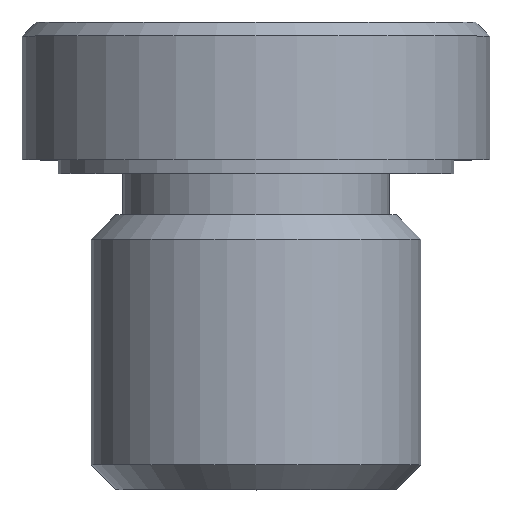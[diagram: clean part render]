
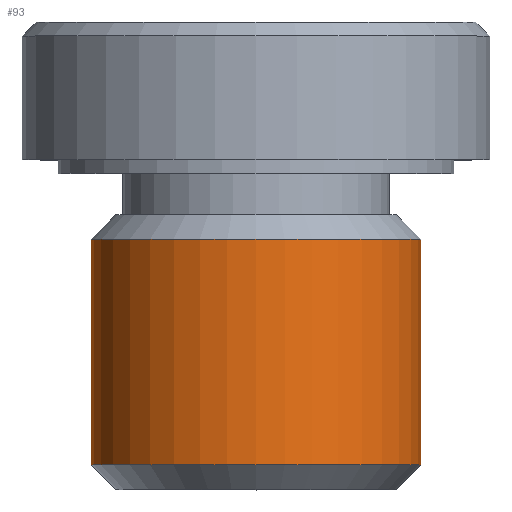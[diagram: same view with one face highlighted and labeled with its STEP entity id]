
A CAD part, top view. The second image highlights one B-rep face of the part: STEP entity #93.
In plain terms, the highlighted cylindrical face has radius 6 mm (diameter 12 mm), a full revolution.
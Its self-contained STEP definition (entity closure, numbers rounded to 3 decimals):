
#93 = ADVANCED_FACE( '', ( #143, #144 ), #145, .T. );
#143 = FACE_OUTER_BOUND( '', #198, .T. );
#144 = FACE_OUTER_BOUND( '', #199, .T. );
#145 = CYLINDRICAL_SURFACE( '', #200, 6. );
#198 = EDGE_LOOP( '', ( #317 ) );
#199 = EDGE_LOOP( '', ( #318 ) );
#200 = AXIS2_PLACEMENT_3D( '', #319, #320, #321 );
#317 = ORIENTED_EDGE( '', *, *, #360, .F. );
#318 = ORIENTED_EDGE( '', *, *, #361, .T. );
#319 = CARTESIAN_POINT( '', ( 0., 0., 0. ) );
#320 = DIRECTION( '', ( 0., 1., 0. ) );
#321 = DIRECTION( '', ( 0., 0., -1. ) );
#360 = EDGE_CURVE( '', #413, #413, #414, .T. );
#361 = EDGE_CURVE( '', #415, #415, #416, .T. );
#413 = VERTEX_POINT( '', #487 );
#414 = CIRCLE( '', #488, 6. );
#415 = VERTEX_POINT( '', #489 );
#416 = CIRCLE( '', #490, 6. );
#487 = CARTESIAN_POINT( '', ( 0., 0.9, -6. ) );
#488 = AXIS2_PLACEMENT_3D( '', #541, #542, #543 );
#489 = CARTESIAN_POINT( '', ( 0., 9.1, -6. ) );
#490 = AXIS2_PLACEMENT_3D( '', #544, #545, #546 );
#541 = CARTESIAN_POINT( '', ( 0., 0.9, 0. ) );
#542 = DIRECTION( '', ( 0., -1., 0. ) );
#543 = DIRECTION( '', ( 0., 0., -1. ) );
#544 = CARTESIAN_POINT( '', ( 0., 9.1, 0. ) );
#545 = DIRECTION( '', ( 0., -1., 0. ) );
#546 = DIRECTION( '', ( 0., 0., -1. ) );
